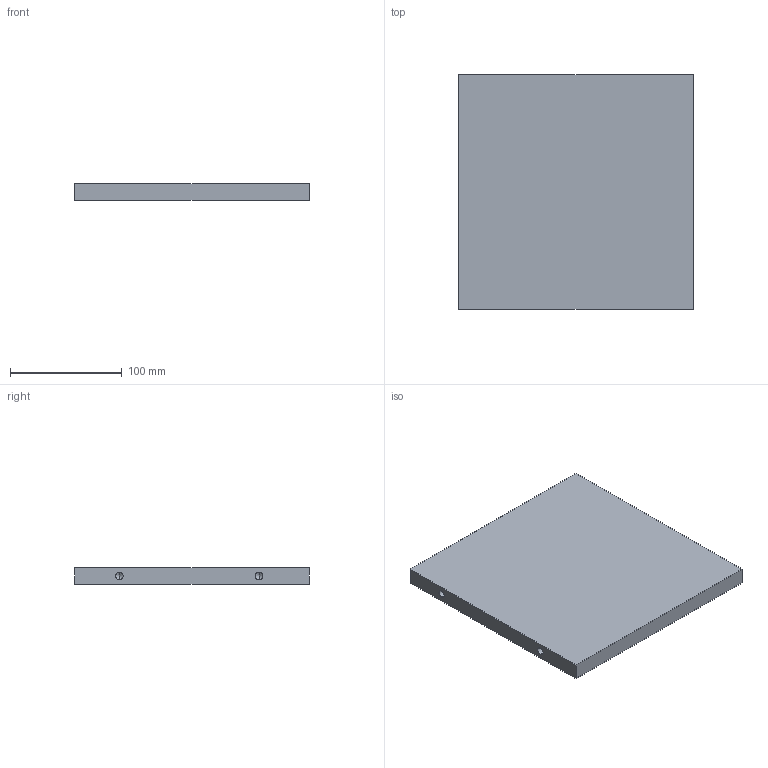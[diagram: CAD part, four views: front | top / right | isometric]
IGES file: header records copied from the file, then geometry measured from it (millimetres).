
Start section: SolidWorks IGES FILE using analytic representation for surfaces
Global section: file name: 61.IGS; native system: SolidWorks 2003 by SolidWorks Corporation; preprocessor: Version 5.3; author: sujet; date: 040213.102544; units: millimetre
Bounding box: 210 x 210 x 15 mm (x, y, z)
Surface area: 103366.8 mm2 (no closed solid volume)
Topology: 0 solids, 0 shells, 22 faces, 216 edges, 208 vertices
Faces by surface type: revolution 16, bspline 6
